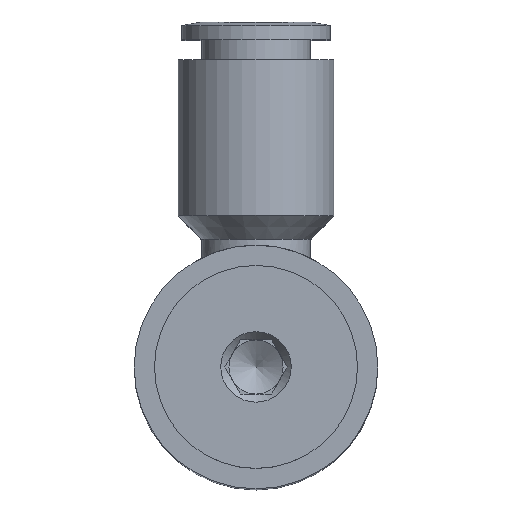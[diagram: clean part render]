
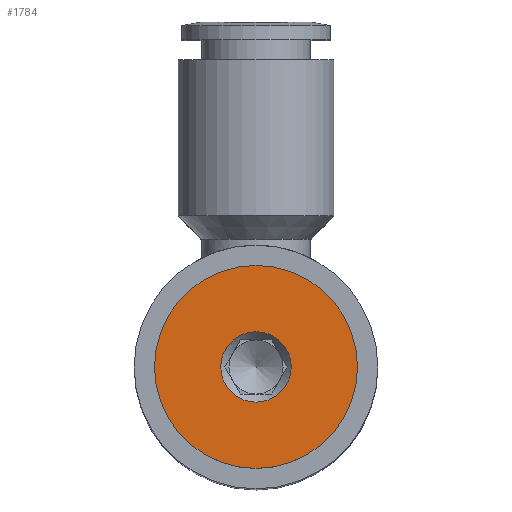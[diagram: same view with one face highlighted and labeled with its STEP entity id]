
A CAD part, top view. The second image highlights one B-rep face of the part: STEP entity #1784.
In plain terms, the highlighted planar face has unit normal (0, 0, 1).
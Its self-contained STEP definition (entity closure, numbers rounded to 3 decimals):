
#971=CARTESIAN_POINT('',(2.6,0.0,44.5));
#972=VERTEX_POINT('',#971);
#973=CARTESIAN_POINT('',(0.0,0.0,44.5));
#974=DIRECTION('',(0.0,0.0,-1.0));
#975=DIRECTION('',(1.0,0.0,0.0));
#976=AXIS2_PLACEMENT_3D('',#973,#974,#975);
#977=CIRCLE('',#976,2.6);
#978=EDGE_CURVE('',#972,#972,#977,.T.);
#1758=CARTESIAN_POINT('',(0.0,-7.5,44.5));
#1759=VERTEX_POINT('',#1758);
#1760=CARTESIAN_POINT('',(0.0,0.0,44.5));
#1761=DIRECTION('',(0.0,0.0,1.0));
#1762=DIRECTION('',(0.0,-1.0,0.0));
#1763=AXIS2_PLACEMENT_3D('',#1760,#1761,#1762);
#1764=CIRCLE('',#1763,7.5);
#1765=EDGE_CURVE('',#1759,#1759,#1764,.T.);
#1773=CARTESIAN_POINT('',(0.0,-3.75,44.5));
#1774=DIRECTION('',(0.0,0.0,1.0));
#1775=DIRECTION('',(1.0,0.0,0.0));
#1776=AXIS2_PLACEMENT_3D('',#1773,#1774,#1775);
#1777=PLANE('',#1776);
#1778=ORIENTED_EDGE('',*,*,#1765,.T.);
#1779=EDGE_LOOP('',(#1778));
#1780=FACE_OUTER_BOUND('',#1779,.T.);
#1781=ORIENTED_EDGE('',*,*,#978,.T.);
#1782=EDGE_LOOP('',(#1781));
#1783=FACE_BOUND('',#1782,.T.);
#1784=ADVANCED_FACE('',(#1780,#1783),#1777,.T.);
